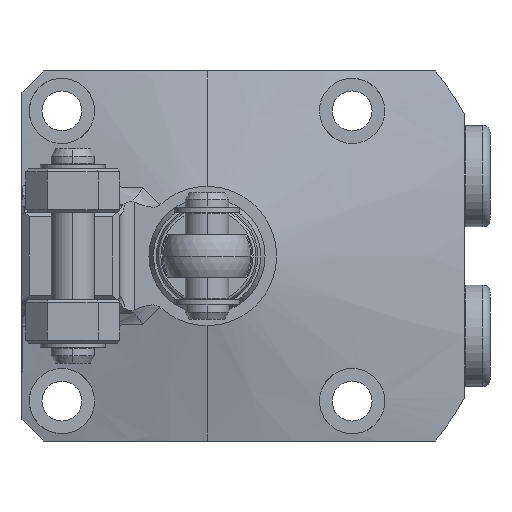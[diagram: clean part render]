
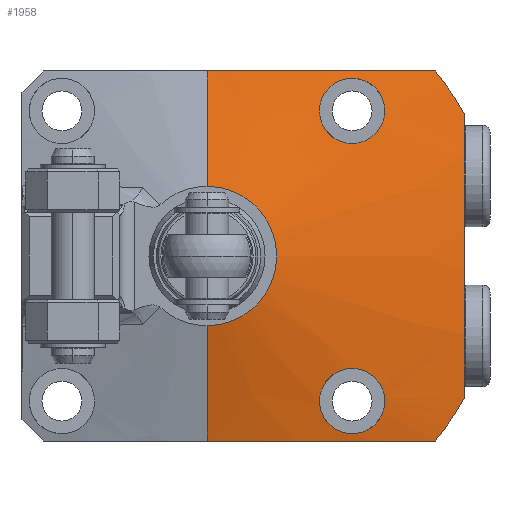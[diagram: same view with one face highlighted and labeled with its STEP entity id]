
A CAD part, left-side view. The second image highlights one B-rep face of the part: STEP entity #1958.
In plain terms, the highlighted conical face has half-angle 75 degrees and reference radius 4 mm.
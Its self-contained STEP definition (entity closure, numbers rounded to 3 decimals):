
#1356=B_SPLINE_CURVE_WITH_KNOTS('',3,(#10095,#10096,#10097,#10098,#10099,
#10100,#10101,#10102,#10103,#10104),.UNSPECIFIED.,.F.,.F.,(4,2,2,2,4),(0.,
0.25,0.5,0.75,1.),.UNSPECIFIED.);
#1357=B_SPLINE_CURVE_WITH_KNOTS('',3,(#10113,#10114,#10115,#10116,#10117,
#10118,#10119,#10120,#10121,#10122),.UNSPECIFIED.,.F.,.F.,(4,2,2,2,4),(0.,
0.25,0.5,0.75,1.),.UNSPECIFIED.);
#1367=B_SPLINE_CURVE_WITH_KNOTS('',3,(#10350,#10351,#10352,#10353),
 .UNSPECIFIED.,.F.,.F.,(4,4),(0.,1.),.UNSPECIFIED.);
#1368=B_SPLINE_CURVE_WITH_KNOTS('',3,(#10357,#10358,#10359,#10360,#10361),
 .UNSPECIFIED.,.F.,.F.,(4,1,4),(0.,0.5,1.),.UNSPECIFIED.);
#1369=B_SPLINE_CURVE_WITH_KNOTS('',3,(#10365,#10366,#10367,#10368),
 .UNSPECIFIED.,.F.,.F.,(4,4),(0.,1.),.UNSPECIFIED.);
#1370=B_SPLINE_CURVE_WITH_KNOTS('',3,(#10369,#10370,#10371,#10372,#10373,
#10374,#10375,#10376,#10377,#10378),.UNSPECIFIED.,.F.,.F.,(4,2,2,2,4),(0.,
0.25,0.5,0.75,1.),.UNSPECIFIED.);
#1371=B_SPLINE_CURVE_WITH_KNOTS('',3,(#10379,#10380,#10381,#10382,#10383,
#10384,#10385,#10386,#10387,#10388),.UNSPECIFIED.,.F.,.F.,(4,2,2,2,4),(0.,
0.25,0.5,0.75,1.),.UNSPECIFIED.);
#1439=FACE_BOUND('',#2753,.T.);
#1440=FACE_BOUND('',#2754,.T.);
#1441=FACE_BOUND('',#2755,.T.);
#1525=CONICAL_SURFACE('',#7169,4.,75.);
#1958=ADVANCED_FACE('',(#1439,#1440,#1441),#1525,.T.);
#2753=EDGE_LOOP('',(#4167,#4168,#4169,#4170,#4171,#4172,#4173,#4174));
#2754=EDGE_LOOP('',(#4175,#4176));
#2755=EDGE_LOOP('',(#4177,#4178));
#3143=LINE('',#10297,#3441);
#3144=LINE('',#10348,#3442);
#3441=VECTOR('',#8371,1.);
#3442=VECTOR('',#8376,1.);
#4167=ORIENTED_EDGE('',*,*,#5975,.F.);
#4168=ORIENTED_EDGE('',*,*,#5981,.T.);
#4169=ORIENTED_EDGE('',*,*,#5982,.T.);
#4170=ORIENTED_EDGE('',*,*,#5983,.T.);
#4171=ORIENTED_EDGE('',*,*,#5984,.F.);
#4172=ORIENTED_EDGE('',*,*,#5985,.T.);
#4173=ORIENTED_EDGE('',*,*,#5986,.F.);
#4174=ORIENTED_EDGE('',*,*,#5987,.T.);
#4175=ORIENTED_EDGE('',*,*,#5926,.T.);
#4176=ORIENTED_EDGE('',*,*,#5988,.T.);
#4177=ORIENTED_EDGE('',*,*,#5922,.T.);
#4178=ORIENTED_EDGE('',*,*,#5989,.T.);
#5359=VERTEX_POINT('',#10094);
#5360=VERTEX_POINT('',#10105);
#5363=VERTEX_POINT('',#10112);
#5364=VERTEX_POINT('',#10123);
#5402=VERTEX_POINT('',#10296);
#5403=VERTEX_POINT('',#10298);
#5408=VERTEX_POINT('',#10347);
#5409=VERTEX_POINT('',#10349);
#5410=VERTEX_POINT('',#10354);
#5411=VERTEX_POINT('',#10356);
#5412=VERTEX_POINT('',#10362);
#5413=VERTEX_POINT('',#10364);
#5922=EDGE_CURVE('',#5360,#5359,#1356,.T.);
#5926=EDGE_CURVE('',#5364,#5363,#1357,.T.);
#5975=EDGE_CURVE('',#5402,#5403,#3143,.T.);
#5981=EDGE_CURVE('',#5402,#5408,#6630,.T.);
#5982=EDGE_CURVE('',#5408,#5409,#3144,.T.);
#5983=EDGE_CURVE('',#5409,#5410,#1367,.T.);
#5984=EDGE_CURVE('',#5411,#5410,#6631,.T.);
#5985=EDGE_CURVE('',#5411,#5412,#1368,.T.);
#5986=EDGE_CURVE('',#5413,#5412,#6632,.T.);
#5987=EDGE_CURVE('',#5413,#5403,#1369,.T.);
#5988=EDGE_CURVE('',#5363,#5364,#1370,.T.);
#5989=EDGE_CURVE('',#5359,#5360,#1371,.T.);
#6630=CIRCLE('',#7166,9.598);
#6631=CIRCLE('',#7167,40.5);
#6632=CIRCLE('',#7168,40.5);
#7166=AXIS2_PLACEMENT_3D('',#10346,#8374,#8375);
#7167=AXIS2_PLACEMENT_3D('',#10355,#8377,#8378);
#7168=AXIS2_PLACEMENT_3D('',#10363,#8379,#8380);
#7169=AXIS2_PLACEMENT_3D('',#10389,#8381,#8382);
#8371=DIRECTION('',(0.259,0.,0.966));
#8374=DIRECTION('',(1.,0.,0.));
#8375=DIRECTION('',(0.,-1.,0.));
#8376=DIRECTION('',(0.259,0.,-0.966));
#8377=DIRECTION('',(1.,0.,0.));
#8378=DIRECTION('',(0.,0.,-1.));
#8379=DIRECTION('',(1.,0.,0.));
#8380=DIRECTION('',(0.,0.,-1.));
#8381=DIRECTION('',(1.,0.,0.));
#8382=DIRECTION('',(0.,0.,1.));
#10094=CARTESIAN_POINT('',(-23.792,-15.5,-20.));
#10095=CARTESIAN_POINT('',(-22.097,-24.5,-20.));
#10096=CARTESIAN_POINT('',(-21.895,-24.5,-21.192));
#10097=CARTESIAN_POINT('',(-21.785,-24.004,-22.376));
#10098=CARTESIAN_POINT('',(-21.79,-22.301,-24.047));
#10099=CARTESIAN_POINT('',(-21.907,-21.101,-24.52));
#10100=CARTESIAN_POINT('',(-22.315,-18.739,-24.478));
#10101=CARTESIAN_POINT('',(-22.603,-17.594,-23.976));
#10102=CARTESIAN_POINT('',(-23.219,-15.971,-22.317));
#10103=CARTESIAN_POINT('',(-23.541,-15.5,-21.182));
#10104=CARTESIAN_POINT('',(-23.792,-15.5,-20.));
#10105=CARTESIAN_POINT('',(-22.097,-24.5,-20.));
#10112=CARTESIAN_POINT('',(-23.792,-15.5,20.));
#10113=CARTESIAN_POINT('',(-22.097,-24.5,20.));
#10114=CARTESIAN_POINT('',(-22.3,-24.5,18.806));
#10115=CARTESIAN_POINT('',(-22.585,-24.013,17.658));
#10116=CARTESIAN_POINT('',(-23.197,-22.385,16.012));
#10117=CARTESIAN_POINT('',(-23.526,-21.239,15.52));
#10118=CARTESIAN_POINT('',(-24.027,-18.907,15.482));
#10119=CARTESIAN_POINT('',(-24.195,-17.706,15.946));
#10120=CARTESIAN_POINT('',(-24.202,-15.991,17.63));
#10121=CARTESIAN_POINT('',(-24.043,-15.5,18.815));
#10122=CARTESIAN_POINT('',(-23.792,-15.5,20.));
#10123=CARTESIAN_POINT('',(-22.097,-24.5,20.));
#10296=CARTESIAN_POINT('',(-28.,0.,9.598));
#10297=CARTESIAN_POINT('',(-29.5,0.,4.));
#10298=CARTESIAN_POINT('',(-23.739,0.,25.5));
#10346=CARTESIAN_POINT('',(-28.,0.,0.));
#10347=CARTESIAN_POINT('',(-28.,0.,-9.598));
#10348=CARTESIAN_POINT('',(-29.5,0.,-4.));
#10349=CARTESIAN_POINT('',(-23.739,0.,-25.5));
#10350=CARTESIAN_POINT('',(-23.739,0.,-25.5));
#10351=CARTESIAN_POINT('',(-23.739,-10.64,-25.5));
#10352=CARTESIAN_POINT('',(-21.881,-21.082,-25.5));
#10353=CARTESIAN_POINT('',(-19.72,-31.464,-25.5));
#10354=CARTESIAN_POINT('',(-19.72,-31.464,-25.5));
#10355=CARTESIAN_POINT('',(-19.72,0.,0.));
#10356=CARTESIAN_POINT('',(-19.72,-35.5,-19.494));
#10357=CARTESIAN_POINT('',(-19.72,-35.5,-19.494));
#10358=CARTESIAN_POINT('',(-20.558,-35.5,-12.996));
#10359=CARTESIAN_POINT('',(-21.561,-35.5,0.));
#10360=CARTESIAN_POINT('',(-20.558,-35.5,12.996));
#10361=CARTESIAN_POINT('',(-19.72,-35.5,19.494));
#10362=CARTESIAN_POINT('',(-19.72,-35.5,19.494));
#10363=CARTESIAN_POINT('',(-19.72,0.,0.));
#10364=CARTESIAN_POINT('',(-19.72,-31.464,25.5));
#10365=CARTESIAN_POINT('',(-19.72,-31.464,25.5));
#10366=CARTESIAN_POINT('',(-21.881,-21.081,25.5));
#10367=CARTESIAN_POINT('',(-23.739,-10.659,25.5));
#10368=CARTESIAN_POINT('',(-23.739,0.,25.5));
#10369=CARTESIAN_POINT('',(-23.792,-15.5,20.));
#10370=CARTESIAN_POINT('',(-23.541,-15.5,21.183));
#10371=CARTESIAN_POINT('',(-23.218,-15.974,22.32));
#10372=CARTESIAN_POINT('',(-22.605,-17.591,23.973));
#10373=CARTESIAN_POINT('',(-22.315,-18.741,24.477));
#10374=CARTESIAN_POINT('',(-21.909,-21.088,24.522));
#10375=CARTESIAN_POINT('',(-21.79,-22.291,24.054));
#10376=CARTESIAN_POINT('',(-21.784,-24.005,22.377));
#10377=CARTESIAN_POINT('',(-21.895,-24.5,21.193));
#10378=CARTESIAN_POINT('',(-22.097,-24.5,20.));
#10379=CARTESIAN_POINT('',(-23.792,-15.5,-20.));
#10380=CARTESIAN_POINT('',(-24.043,-15.5,-18.815));
#10381=CARTESIAN_POINT('',(-24.202,-15.992,-17.631));
#10382=CARTESIAN_POINT('',(-24.196,-17.694,-15.955));
#10383=CARTESIAN_POINT('',(-24.03,-18.892,-15.483));
#10384=CARTESIAN_POINT('',(-23.525,-21.244,-15.518));
#10385=CARTESIAN_POINT('',(-23.198,-22.382,-16.009));
#10386=CARTESIAN_POINT('',(-22.584,-24.016,-17.661));
#10387=CARTESIAN_POINT('',(-22.3,-24.5,-18.806));
#10388=CARTESIAN_POINT('',(-22.097,-24.5,-20.));
#10389=CARTESIAN_POINT('',(-29.5,0.,0.));
